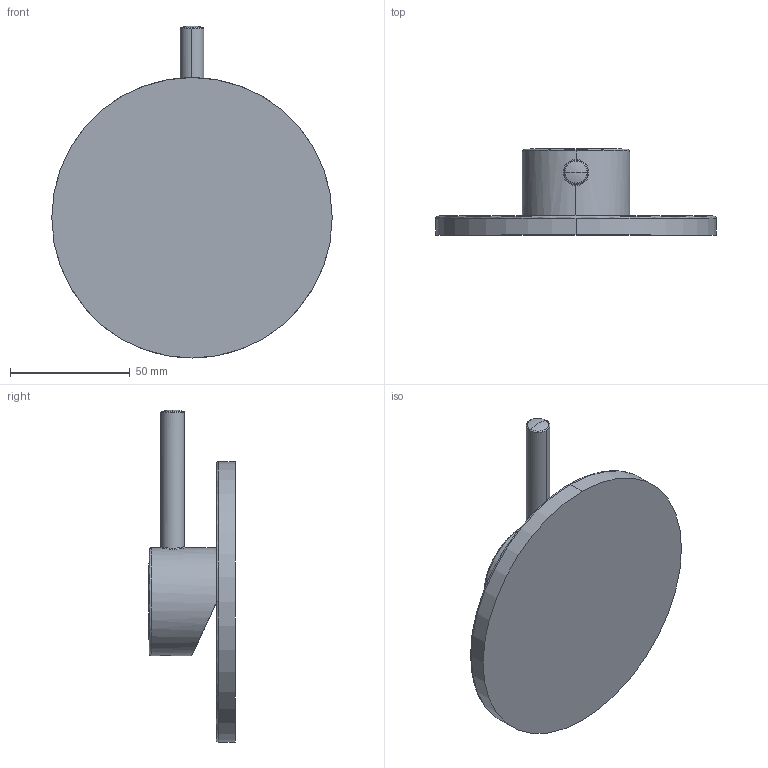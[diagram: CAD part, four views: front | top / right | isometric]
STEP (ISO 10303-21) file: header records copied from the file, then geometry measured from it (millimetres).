
FILE_DESCRIPTION (( 'STEP AP203' ), '1' );
FILE_NAME ('12201310 x architetti.STEP', '2023-10-23T13:15:05', ( '' ), ( '' ), 'SwSTEP 2.0', 'SolidWorks 2020', '' );
FILE_SCHEMA (( 'CONFIG_CONTROL_DESIGN' ));
Length unit declared in the file: millimetre
Products named in the file (1): 12201310 x architetti
Bounding box: 117 x 36.14 x 138.5 mm (x, y, z)
Volume: 125571.6 mm3; surface area: 33546.8 mm2
Topology: 1 solids, 1 shells, 32 faces, 79 edges, 47 vertices
Faces by surface type: cylinder 14, bspline 13, plane 3, cone 2
Entity records: 1709 total; most frequent: CARTESIAN_POINT 950, ORIENTED_EDGE 154, DIRECTION 135, EDGE_CURVE 77, AXIS2_PLACEMENT_3D 58, VERTEX_POINT 47, CIRCLE 38, EDGE_LOOP 34
